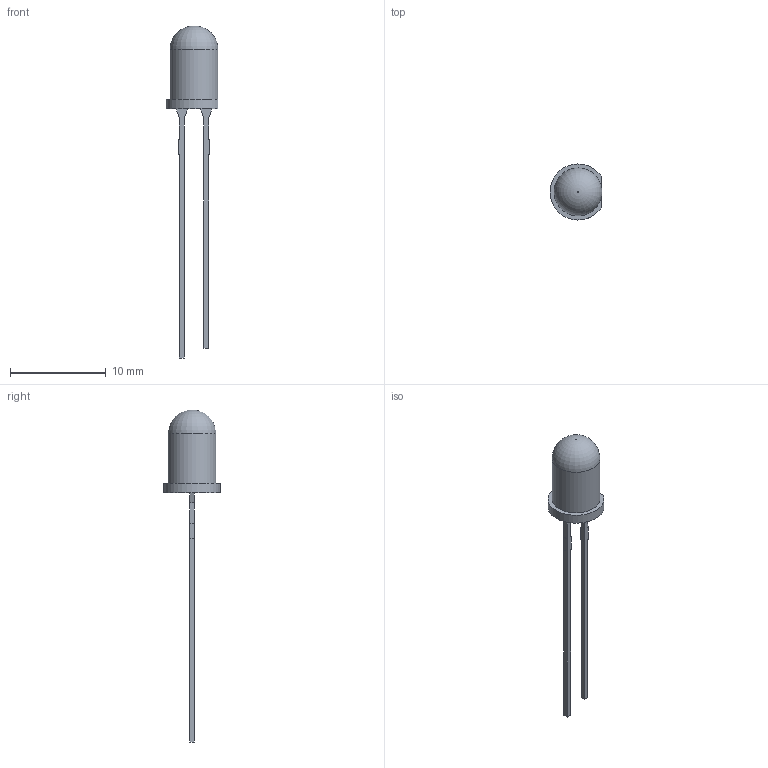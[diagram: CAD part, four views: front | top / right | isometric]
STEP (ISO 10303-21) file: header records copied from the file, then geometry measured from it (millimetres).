
FILE_DESCRIPTION(/* description */ ('STEP AP242','CAx-IF Rec.Pracs.---Representation and Presentation of Product Manufacturing Information (PMI)---4.0---2014-10-13','CAx-IF Rec.Pracs.---3D Tessellated Geometry---0.4---2014-09-14','2;1'),/* implementation_level */ '2;1');
FILE_NAME(/* name */ '62b625e53d4ac822bb2787cc',/* time_stamp */ '2022-06-24T21:00:21+00:00',/* author */ (''),/* organization */ (''),/* preprocessor_version */ 'ST-DEVELOPER v18.102',/* originating_system */ ' ',/* authorisation */ ' ');
FILE_SCHEMA (('AP242_MANAGED_MODEL_BASED_3D_ENGINEERING_MIM_LF { 1 0 10303 442 1 1 4 }'));
Length unit declared in the file: metre
Products named in the file (4): QBL8IW15C-CW110; Lens; Lead1; Lead2
Assembly tree (3 placements, depth 2):
  QBL8IW15C-CW110
    Lens
    Lead1
    Lead2
Bounding box: 5.42 x 5.85 x 34.65 mm (x, y, z)
Volume: 173.7 mm3; surface area: 277.3 mm2
Topology: 3 solids, 3 shells, 96 faces, 249 edges, 165 vertices
Faces by surface type: plane 64, bspline 29, cylinder 2, torus 1
Full cylindrical faces by diameter (mm): 5 x1
Entity records: 3076 total; most frequent: CARTESIAN_POINT 837, ORIENTED_EDGE 494, DIRECTION 334, EDGE_CURVE 247, LINE 182, VECTOR 182, VERTEX_POINT 165, EDGE_LOOP 104
